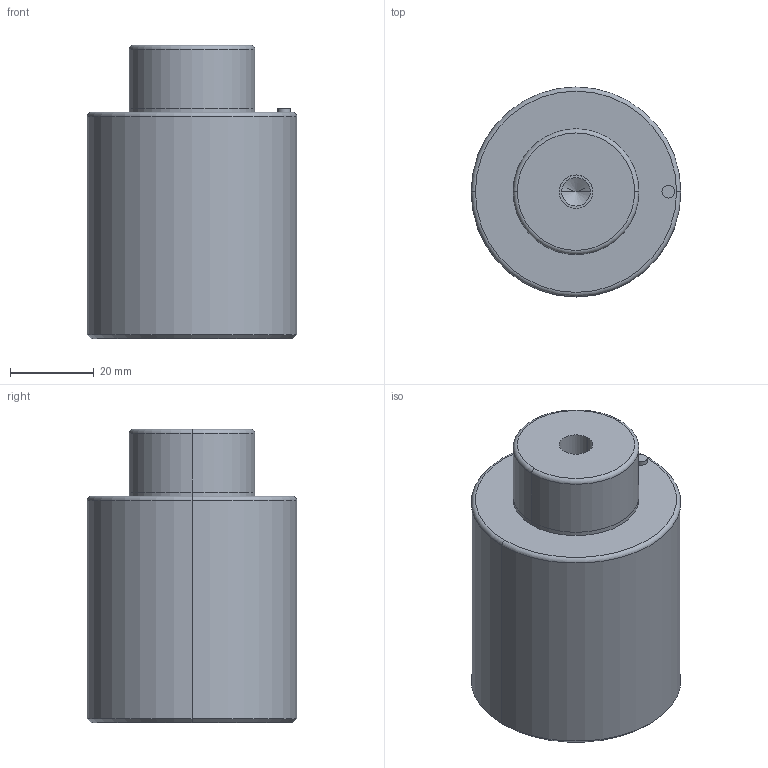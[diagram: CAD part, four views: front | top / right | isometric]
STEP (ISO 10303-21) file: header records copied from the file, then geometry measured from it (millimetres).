
FILE_DESCRIPTION(/* description */ (''),/* implementation_level */ '2;1');
FILE_NAME(/* name */ '3d_gsc50-15_03826_r00.stp',/* time_stamp */ '2011-01-10T14:15:21+09:00',/* author */ ('MISUMI'),/* organization */ (''),/* preprocessor_version */ 'ST-DEVELOPER v11',/* originating_system */ 'UGS - NX 5.0',/* authorisation */ '');
FILE_SCHEMA (('CONFIG_CONTROL_DESIGN'));
Length unit declared in the file: millimetre
Products named in the file (1): 3d_gsc50-15_03826_r00
Bounding box: 50 x 50 x 70 mm (x, y, z)
Volume: 115226.6 mm3; surface area: 14609.8 mm2
Topology: 1 solids, 1 shells, 32 faces, 66 edges, 38 vertices
Faces by surface type: cylinder 16, cone 6, plane 6, torus 4
Entity records: 912 total; most frequent: DIRECTION 168, CARTESIAN_POINT 133, ORIENTED_EDGE 124, AXIS2_PLACEMENT_3D 73, EDGE_CURVE 62, CIRCLE 40, EDGE_LOOP 38, VERTEX_POINT 38
